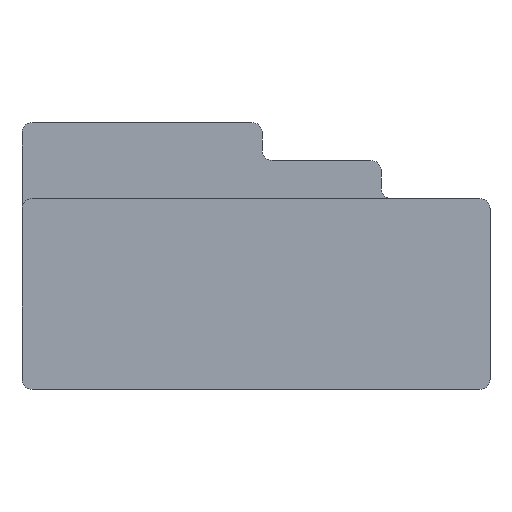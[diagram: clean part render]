
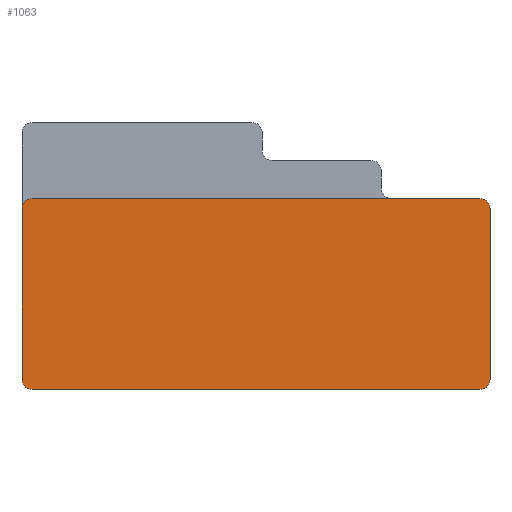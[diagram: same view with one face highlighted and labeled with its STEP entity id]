
A CAD part, front view. The second image highlights one B-rep face of the part: STEP entity #1063.
In plain terms, the highlighted planar face has unit normal (0, -1, 0).
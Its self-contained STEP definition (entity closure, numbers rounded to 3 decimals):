
#190=CARTESIAN_POINT('',(-10.9,-11.6,8.8));
#191=DIRECTION('',(0.,-1.,0.));
#192=DIRECTION('',(0.,0.,1.));
#193=AXIS2_PLACEMENT_3D('',#190,#191,#192);
#195=CARTESIAN_POINT('',(10.9,-11.6,8.8));
#196=DIRECTION('',(0.,-1.,0.));
#197=DIRECTION('',(1.,0.,0.));
#198=AXIS2_PLACEMENT_3D('',#195,#196,#197);
#200=CARTESIAN_POINT('',(10.9,-11.6,0.5));
#201=DIRECTION('',(0.,-1.,0.));
#202=DIRECTION('',(0.,0.,-1.));
#203=AXIS2_PLACEMENT_3D('',#200,#201,#202);
#205=CARTESIAN_POINT('',(-10.9,-11.6,0.5));
#206=DIRECTION('',(0.,-1.,0.));
#207=DIRECTION('',(-1.,0.,0.));
#208=AXIS2_PLACEMENT_3D('',#205,#206,#207);
#210=DIRECTION('',(0.,0.,1.));
#211=VECTOR('',#210,8.3);
#212=CARTESIAN_POINT('',(-11.4,-11.6,0.5));
#213=LINE('',#212,#211);
#298=DIRECTION('',(1.,0.,0.));
#299=VECTOR('',#298,21.8);
#300=CARTESIAN_POINT('',(-10.9,-11.6,9.3));
#301=LINE('',#300,#299);
#490=DIRECTION('',(1.,0.,0.));
#491=VECTOR('',#490,21.8);
#492=CARTESIAN_POINT('',(-10.9,-11.6,0.));
#493=LINE('',#492,#491);
#560=DIRECTION('',(0.,0.,1.));
#561=VECTOR('',#560,8.3);
#562=CARTESIAN_POINT('',(11.4,-11.6,0.5));
#563=LINE('',#562,#561);
#688=CARTESIAN_POINT('',(-10.9,-11.6,9.3));
#689=CARTESIAN_POINT('',(-11.4,-11.6,8.8));
#690=VERTEX_POINT('',#688);
#691=VERTEX_POINT('',#689);
#716=CARTESIAN_POINT('',(11.4,-11.6,8.8));
#717=VERTEX_POINT('',#716);
#718=CARTESIAN_POINT('',(10.9,-11.6,9.3));
#719=VERTEX_POINT('',#718);
#720=CARTESIAN_POINT('',(10.9,-11.6,0.));
#721=CARTESIAN_POINT('',(11.4,-11.6,0.5));
#722=VERTEX_POINT('',#720);
#723=VERTEX_POINT('',#721);
#732=CARTESIAN_POINT('',(-11.4,-11.6,0.5));
#733=VERTEX_POINT('',#732);
#734=CARTESIAN_POINT('',(-10.9,-11.6,0.));
#735=VERTEX_POINT('',#734);
#1041=CARTESIAN_POINT('',(-11.4,-11.6,0.));
#1042=DIRECTION('',(0.,-1.,0.));
#1043=DIRECTION('',(1.,0.,0.));
#1044=AXIS2_PLACEMENT_3D('',#1041,#1042,#1043);
#1045=PLANE('',#1044);
#1047=ORIENTED_EDGE('',*,*,#1046,.F.);
#1049=ORIENTED_EDGE('',*,*,#1048,.T.);
#1051=ORIENTED_EDGE('',*,*,#1050,.F.);
#1053=ORIENTED_EDGE('',*,*,#1052,.F.);
#1054=ORIENTED_EDGE('',*,*,#1031,.F.);
#1056=ORIENTED_EDGE('',*,*,#1055,.F.);
#1058=ORIENTED_EDGE('',*,*,#1057,.F.);
#1060=ORIENTED_EDGE('',*,*,#1059,.T.);
#1061=EDGE_LOOP('',(#1047,#1049,#1051,#1053,#1054,#1056,#1058,#1060));
#1062=FACE_OUTER_BOUND('',#1061,.F.);
#1063=ADVANCED_FACE('',(#1062),#1045,.T.);
#194=CIRCLE('',#193,0.5);
#199=CIRCLE('',#198,0.5);
#204=CIRCLE('',#203,0.5);
#209=CIRCLE('',#208,0.5);
#1031=EDGE_CURVE('',#722,#723,#204,.T.);
#1046=EDGE_CURVE('',#690,#691,#194,.T.);
#1048=EDGE_CURVE('',#690,#719,#301,.T.);
#1050=EDGE_CURVE('',#717,#719,#199,.T.);
#1052=EDGE_CURVE('',#723,#717,#563,.T.);
#1055=EDGE_CURVE('',#735,#722,#493,.T.);
#1057=EDGE_CURVE('',#733,#735,#209,.T.);
#1059=EDGE_CURVE('',#733,#691,#213,.T.);
